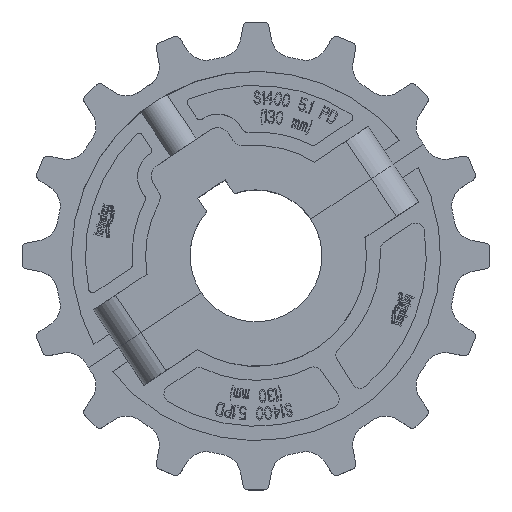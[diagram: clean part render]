
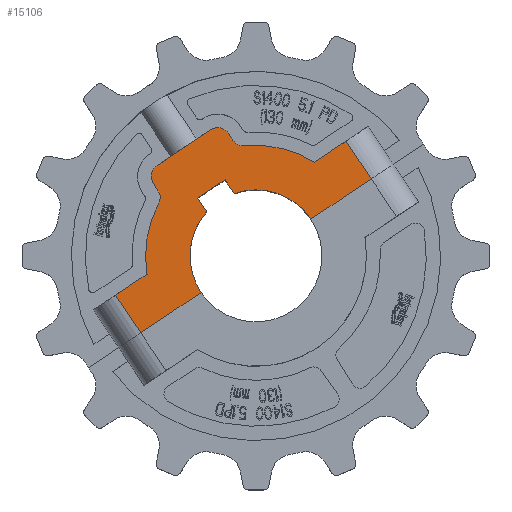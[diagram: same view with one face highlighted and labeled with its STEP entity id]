
A CAD part, top view. The second image highlights one B-rep face of the part: STEP entity #15106.
In plain terms, the highlighted planar face has unit normal (0, 0, 1).
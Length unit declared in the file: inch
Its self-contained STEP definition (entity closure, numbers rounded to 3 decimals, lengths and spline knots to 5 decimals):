
#561=DIRECTION('',(-0.831,-0.556,0.));
#562=VECTOR('',#561,0.375);
#563=CARTESIAN_POINT('',(-0.35172,0.86387,0.99));
#564=LINE('',#563,#562);
#565=DIRECTION('',(0.556,-0.831,0.));
#566=VECTOR('',#565,0.1875);
#567=CARTESIAN_POINT('',(-0.66352,0.65553,0.99));
#568=LINE('',#567,#566);
#569=CARTESIAN_POINT('',(0.,0.,0.99));
#570=DIRECTION('',(0.,0.,1.));
#571=DIRECTION('',(-0.746,0.666,0.));
#572=AXIS2_PLACEMENT_3D('',#569,#570,#571);
#574=DIRECTION('',(0.831,0.556,0.));
#575=VECTOR('',#574,0.825);
#576=CARTESIAN_POINT('',(-1.30956,-0.87502,0.99));
#577=LINE('',#576,#575);
#578=DIRECTION('',(-0.556,0.831,0.));
#579=VECTOR('',#578,0.515);
#580=CARTESIAN_POINT('',(-1.30956,-0.87502,0.99));
#581=LINE('',#580,#579);
#582=DIRECTION('',(-0.831,-0.556,0.));
#583=VECTOR('',#582,0.43054);
#584=CARTESIAN_POINT('',(-1.23771,-0.20762,0.99));
#585=LINE('',#584,#583);
#586=CARTESIAN_POINT('',(0.,0.,0.99));
#587=DIRECTION('',(0.,0.,1.));
#588=DIRECTION('',(-0.882,0.471,0.));
#589=AXIS2_PLACEMENT_3D('',#586,#587,#588);
#591=DIRECTION('',(0.556,-0.831,0.));
#592=VECTOR('',#591,0.09);
#593=CARTESIAN_POINT('',(-1.16448,0.82029,0.99));
#594=LINE('',#593,#592);
#595=CARTESIAN_POINT('',(-1.03976,0.90363,0.99));
#596=DIRECTION('',(0.,0.,1.));
#597=DIRECTION('',(-0.556,0.831,0.));
#598=AXIS2_PLACEMENT_3D('',#595,#596,#597);
#600=DIRECTION('',(-0.831,-0.556,0.));
#601=VECTOR('',#600,0.725);
#602=CARTESIAN_POINT('',(-0.52028,1.43114,0.99));
#603=LINE('',#602,#601);
#604=CARTESIAN_POINT('',(-0.43695,1.30642,0.99));
#605=DIRECTION('',(0.,0.,1.));
#606=DIRECTION('',(0.831,0.556,0.));
#607=AXIS2_PLACEMENT_3D('',#604,#605,#606);
#609=DIRECTION('',(-0.556,0.831,0.));
#610=VECTOR('',#609,0.09);
#611=CARTESIAN_POINT('',(-0.26222,1.31492,0.99));
#612=LINE('',#611,#610);
#613=CARTESIAN_POINT('',(0.,0.,0.99));
#614=DIRECTION('',(0.,0.,1.));
#615=DIRECTION('',(0.53,0.848,0.));
#616=AXIS2_PLACEMENT_3D('',#613,#614,#615);
#618=DIRECTION('',(-0.831,-0.556,0.));
#619=VECTOR('',#618,0.43054);
#620=CARTESIAN_POINT('',(1.02345,1.30323,0.99));
#621=LINE('',#620,#619);
#622=DIRECTION('',(0.556,-0.831,0.));
#623=VECTOR('',#622,0.515);
#624=CARTESIAN_POINT('',(1.02345,1.30323,0.99));
#625=LINE('',#624,#623);
#626=DIRECTION('',(0.831,0.556,0.));
#627=VECTOR('',#626,0.825);
#628=CARTESIAN_POINT('',(0.6236,0.41668,0.99));
#629=LINE('',#628,#627);
#630=CARTESIAN_POINT('',(0.,0.,0.99));
#631=DIRECTION('',(0.,0.,1.));
#632=DIRECTION('',(0.831,0.556,0.));
#633=AXIS2_PLACEMENT_3D('',#630,#631,#632);
#635=DIRECTION('',(-0.556,0.831,0.));
#636=VECTOR('',#635,0.1875);
#637=CARTESIAN_POINT('',(-0.24755,0.70797,0.99));
#638=LINE('',#637,#636);
#2004=CARTESIAN_POINT('',(-0.1375,1.39826,0.99));
#2005=DIRECTION('',(0.,0.,-1.));
#2006=DIRECTION('',(0.098,-0.995,0.));
#2007=AXIS2_PLACEMENT_3D('',#2004,#2005,#2006);
#2040=CARTESIAN_POINT('',(-1.2392,0.66212,0.99));
#2041=DIRECTION('',(0.,0.,-1.));
#2042=DIRECTION('',(0.831,0.556,0.));
#2043=AXIS2_PLACEMENT_3D('',#2040,#2041,#2042);
#11118=CARTESIAN_POINT('',(-1.1069,0.59144,0.99));
#11120=VERTEX_POINT('',#11118);
#11123=CARTESIAN_POINT('',(-1.11448,0.74546,0.99));
#11124=VERTEX_POINT('',#11123);
#11134=CARTESIAN_POINT('',(-0.26222,1.31492,0.99));
#11136=VERTEX_POINT('',#11134);
#11139=CARTESIAN_POINT('',(-0.12282,1.24898,0.99));
#11140=VERTEX_POINT('',#11139);
#11149=CARTESIAN_POINT('',(-0.31222,1.38975,0.99));
#11151=VERTEX_POINT('',#11149);
#11153=CARTESIAN_POINT('',(-0.52028,1.43114,0.99));
#11154=VERTEX_POINT('',#11153);
#11157=CARTESIAN_POINT('',(-1.1231,1.02835,0.99));
#11159=VERTEX_POINT('',#11157);
#11161=CARTESIAN_POINT('',(-1.16448,0.82029,0.99));
#11162=VERTEX_POINT('',#11161);
#11215=CARTESIAN_POINT('',(-1.23771,-0.20762,0.99));
#11216=VERTEX_POINT('',#11215);
#11219=CARTESIAN_POINT('',(0.66547,1.06404,0.99));
#11220=VERTEX_POINT('',#11219);
#11233=CARTESIAN_POINT('',(-1.59568,-0.44682,0.99));
#11234=VERTEX_POINT('',#11233);
#11235=CARTESIAN_POINT('',(1.02345,1.30323,0.99));
#11236=VERTEX_POINT('',#11235);
#11317=CARTESIAN_POINT('',(-1.30956,-0.87502,0.99));
#11318=VERTEX_POINT('',#11317);
#11319=CARTESIAN_POINT('',(1.30956,0.87502,0.99));
#11320=VERTEX_POINT('',#11319);
#14543=CARTESIAN_POINT('',(-0.35172,0.86387,0.99));
#14544=CARTESIAN_POINT('',(-0.66352,0.65553,0.99));
#14545=VERTEX_POINT('',#14543);
#14546=VERTEX_POINT('',#14544);
#14547=CARTESIAN_POINT('',(-0.55935,0.49963,0.99));
#14548=VERTEX_POINT('',#14547);
#14549=CARTESIAN_POINT('',(-0.6236,-0.41668,0.99));
#14550=VERTEX_POINT('',#14549);
#14551=CARTESIAN_POINT('',(0.6236,0.41668,0.99));
#14552=CARTESIAN_POINT('',(-0.24755,0.70797,0.99));
#14553=VERTEX_POINT('',#14551);
#14554=VERTEX_POINT('',#14552);
#15067=CARTESIAN_POINT('',(0.,0.,0.99));
#15068=DIRECTION('',(0.,0.,1.));
#15069=DIRECTION('',(1.,0.,0.));
#15070=AXIS2_PLACEMENT_3D('',#15067,#15068,#15069);
#15071=PLANE('',#15070);
#15072=ORIENTED_EDGE('',*,*,#15013,.T.);
#15073=ORIENTED_EDGE('',*,*,#15034,.T.);
#15074=ORIENTED_EDGE('',*,*,#15047,.T.);
#15075=ORIENTED_EDGE('',*,*,#14748,.F.);
#15077=ORIENTED_EDGE('',*,*,#15076,.T.);
#15078=ORIENTED_EDGE('',*,*,#14853,.F.);
#15080=ORIENTED_EDGE('',*,*,#15079,.F.);
#15082=ORIENTED_EDGE('',*,*,#15081,.F.);
#15084=ORIENTED_EDGE('',*,*,#15083,.F.);
#15086=ORIENTED_EDGE('',*,*,#15085,.F.);
#15088=ORIENTED_EDGE('',*,*,#15087,.F.);
#15090=ORIENTED_EDGE('',*,*,#15089,.F.);
#15092=ORIENTED_EDGE('',*,*,#15091,.F.);
#15094=ORIENTED_EDGE('',*,*,#15093,.F.);
#15096=ORIENTED_EDGE('',*,*,#15095,.F.);
#15097=ORIENTED_EDGE('',*,*,#14899,.F.);
#15099=ORIENTED_EDGE('',*,*,#15098,.T.);
#15100=ORIENTED_EDGE('',*,*,#14772,.F.);
#15101=ORIENTED_EDGE('',*,*,#15061,.T.);
#15103=ORIENTED_EDGE('',*,*,#15102,.T.);
#15104=EDGE_LOOP('',(#15072,#15073,#15074,#15075,#15077,#15078,#15080,#15082,
#15084,#15086,#15088,#15090,#15092,#15094,#15096,#15097,#15099,#15100,#15101,
#15103));
#15105=FACE_OUTER_BOUND('',#15104,.F.);
#15106=ADVANCED_FACE('',(#15105),#15071,.T.);
#573=CIRCLE('',#572,0.75);
#590=CIRCLE('',#589,1.255);
#599=CIRCLE('',#598,0.15);
#608=CIRCLE('',#607,0.15);
#617=CIRCLE('',#616,1.255);
#634=CIRCLE('',#633,0.75);
#2008=CIRCLE('',#2007,0.15);
#2044=CIRCLE('',#2043,0.15);
#14748=EDGE_CURVE('',#11318,#14550,#577,.T.);
#14772=EDGE_CURVE('',#14553,#11320,#629,.T.);
#14853=EDGE_CURVE('',#11216,#11234,#585,.T.);
#14899=EDGE_CURVE('',#11236,#11220,#621,.T.);
#15013=EDGE_CURVE('',#14545,#14546,#564,.T.);
#15034=EDGE_CURVE('',#14546,#14548,#568,.T.);
#15047=EDGE_CURVE('',#14548,#14550,#573,.T.);
#15061=EDGE_CURVE('',#14553,#14554,#634,.T.);
#15076=EDGE_CURVE('',#11318,#11234,#581,.T.);
#15079=EDGE_CURVE('',#11120,#11216,#590,.T.);
#15081=EDGE_CURVE('',#11124,#11120,#2044,.T.);
#15083=EDGE_CURVE('',#11162,#11124,#594,.T.);
#15085=EDGE_CURVE('',#11159,#11162,#599,.T.);
#15087=EDGE_CURVE('',#11154,#11159,#603,.T.);
#15089=EDGE_CURVE('',#11151,#11154,#608,.T.);
#15091=EDGE_CURVE('',#11136,#11151,#612,.T.);
#15093=EDGE_CURVE('',#11140,#11136,#2008,.T.);
#15095=EDGE_CURVE('',#11220,#11140,#617,.T.);
#15098=EDGE_CURVE('',#11236,#11320,#625,.T.);
#15102=EDGE_CURVE('',#14554,#14545,#638,.T.);
